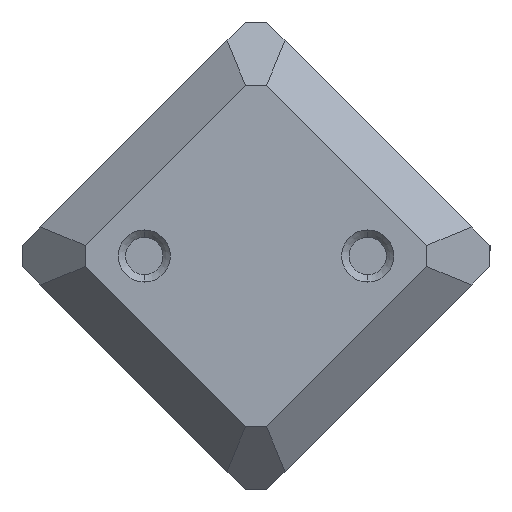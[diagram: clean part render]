
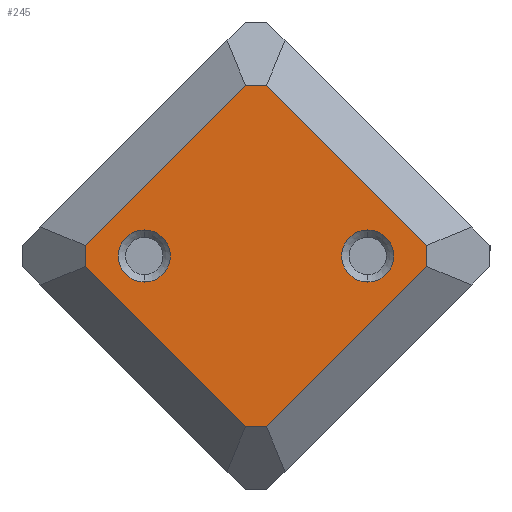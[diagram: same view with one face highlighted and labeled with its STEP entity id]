
A CAD part, front view. The second image highlights one B-rep face of the part: STEP entity #245.
In plain terms, the highlighted planar face has unit normal (0, -1, 0).
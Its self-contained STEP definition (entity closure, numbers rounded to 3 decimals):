
#5 = VECTOR ( 'NONE', #287, 1000. ) ;
#13 = CARTESIAN_POINT ( 'NONE',  ( -7.5, -10., 0. ) ) ;
#25 = EDGE_CURVE ( 'NONE', #1343, #389, #1183, .T. ) ;
#66 = AXIS2_PLACEMENT_3D ( 'NONE', #636, #419, #1370 ) ;
#69 = DIRECTION ( 'NONE',  ( 0., -1., 0. ) ) ;
#92 = ORIENTED_EDGE ( 'NONE', *, *, #476, .T. ) ;
#96 = CARTESIAN_POINT ( 'NONE',  ( 11.464, -10., 0.707 ) ) ;
#101 = CARTESIAN_POINT ( 'NONE',  ( -7.5, -10., -1.75 ) ) ;
#115 = LINE ( 'NONE', #614, #951 ) ;
#116 = CARTESIAN_POINT ( 'NONE',  ( 11.464, -10., -0.707 ) ) ;
#117 = VECTOR ( 'NONE', #504, 1000. ) ;
#143 = CARTESIAN_POINT ( 'NONE',  ( -11.464, -10., -0.707 ) ) ;
#177 = ORIENTED_EDGE ( 'NONE', *, *, #349, .T. ) ;
#182 = CARTESIAN_POINT ( 'NONE',  ( -11.464, -10., 0.707 ) ) ;
#203 = VECTOR ( 'NONE', #1028, 1000. ) ;
#204 = DIRECTION ( 'NONE',  ( 0., 0., -1. ) ) ;
#208 = VERTEX_POINT ( 'NONE', #388 ) ;
#216 = DIRECTION ( 'NONE',  ( 0., 1., 0. ) ) ;
#218 = EDGE_CURVE ( 'NONE', #389, #208, #864, .T. ) ;
#239 = AXIS2_PLACEMENT_3D ( 'NONE', #1353, #69, #600 ) ;
#245 = ADVANCED_FACE ( 'NONE', ( #1150, #543, #784 ), #698, .T. ) ;
#255 = LINE ( 'NONE', #1016, #203 ) ;
#267 = AXIS2_PLACEMENT_3D ( 'NONE', #1054, #216, #204 ) ;
#268 = LINE ( 'NONE', #724, #1371 ) ;
#285 = CIRCLE ( 'NONE', #438, 1.75 ) ;
#287 = DIRECTION ( 'NONE',  ( -1., 0., 0. ) ) ;
#289 = CARTESIAN_POINT ( 'NONE',  ( -0.707, -10., -11.464 ) ) ;
#302 = LINE ( 'NONE', #1344, #986 ) ;
#314 = CARTESIAN_POINT ( 'NONE',  ( 7.5, -10., 1.75 ) ) ;
#323 = DIRECTION ( 'NONE',  ( -0.707, 0., 0.707 ) ) ;
#349 = EDGE_CURVE ( 'NONE', #208, #592, #115, .T. ) ;
#383 = AXIS2_PLACEMENT_3D ( 'NONE', #1059, #1383, #958 ) ;
#388 = CARTESIAN_POINT ( 'NONE',  ( 0.707, -10., -11.464 ) ) ;
#389 = VERTEX_POINT ( 'NONE', #289 ) ;
#402 = ORIENTED_EDGE ( 'NONE', *, *, #25, .T. ) ;
#410 = CARTESIAN_POINT ( 'NONE',  ( -0.707, -10., 11.464 ) ) ;
#419 = DIRECTION ( 'NONE',  ( 0., 1., 0. ) ) ;
#421 = CARTESIAN_POINT ( 'NONE',  ( 11.464, -10., 0. ) ) ;
#438 = AXIS2_PLACEMENT_3D ( 'NONE', #13, #454, #674 ) ;
#443 = EDGE_CURVE ( 'NONE', #1006, #1343, #255, .T. ) ;
#454 = DIRECTION ( 'NONE',  ( 0., 1., 0. ) ) ;
#468 = VERTEX_POINT ( 'NONE', #96 ) ;
#476 = EDGE_CURVE ( 'NONE', #592, #468, #746, .T. ) ;
#502 = VERTEX_POINT ( 'NONE', #314 ) ;
#504 = DIRECTION ( 'NONE',  ( 1., 0., 0. ) ) ;
#543 = FACE_BOUND ( 'NONE', #808, .T. ) ;
#567 = CARTESIAN_POINT ( 'NONE',  ( 0.707, -10., 11.464 ) ) ;
#571 = EDGE_CURVE ( 'NONE', #502, #701, #1311, .T. ) ;
#588 = LINE ( 'NONE', #1223, #5 ) ;
#592 = VERTEX_POINT ( 'NONE', #116 ) ;
#600 = DIRECTION ( 'NONE',  ( 0., 0., -1. ) ) ;
#614 = CARTESIAN_POINT ( 'NONE',  ( 0., -10., -12.172 ) ) ;
#635 = EDGE_CURVE ( 'NONE', #977, #1241, #285, .T. ) ;
#636 = CARTESIAN_POINT ( 'NONE',  ( 7.5, -10., 0. ) ) ;
#674 = DIRECTION ( 'NONE',  ( 0., 0., -1. ) ) ;
#675 = ORIENTED_EDGE ( 'NONE', *, *, #1175, .T. ) ;
#696 = DIRECTION ( 'NONE',  ( -0.707, 0., -0.707 ) ) ;
#698 = PLANE ( 'NONE',  #239 ) ;
#701 = VERTEX_POINT ( 'NONE', #773 ) ;
#724 = CARTESIAN_POINT ( 'NONE',  ( 12.172, -10., 0. ) ) ;
#734 = ORIENTED_EDGE ( 'NONE', *, *, #218, .T. ) ;
#746 = LINE ( 'NONE', #421, #877 ) ;
#750 = CARTESIAN_POINT ( 'NONE',  ( -12.172, -10., 0. ) ) ;
#773 = CARTESIAN_POINT ( 'NONE',  ( 7.5, -10., -1.75 ) ) ;
#784 = FACE_OUTER_BOUND ( 'NONE', #972, .T. ) ;
#805 = ORIENTED_EDGE ( 'NONE', *, *, #1141, .T. ) ;
#808 = EDGE_LOOP ( 'NONE', ( #1315, #1377 ) ) ;
#814 = CARTESIAN_POINT ( 'NONE',  ( -7.5, -10., 1.75 ) ) ;
#858 = DIRECTION ( 'NONE',  ( 0.707, 0., -0.707 ) ) ;
#864 = LINE ( 'NONE', #1124, #117 ) ;
#877 = VECTOR ( 'NONE', #1365, 1000. ) ;
#885 = ORIENTED_EDGE ( 'NONE', *, *, #933, .T. ) ;
#891 = VECTOR ( 'NONE', #858, 1000. ) ;
#894 = ORIENTED_EDGE ( 'NONE', *, *, #443, .T. ) ;
#925 = DIRECTION ( 'NONE',  ( 0.707, 0., 0.707 ) ) ;
#933 = EDGE_CURVE ( 'NONE', #1378, #992, #588, .T. ) ;
#951 = VECTOR ( 'NONE', #925, 1000. ) ;
#958 = DIRECTION ( 'NONE',  ( 0., 0., -1. ) ) ;
#972 = EDGE_LOOP ( 'NONE', ( #177, #92, #675, #885, #1046, #894, #402, #734 ) ) ;
#977 = VERTEX_POINT ( 'NONE', #814 ) ;
#986 = VECTOR ( 'NONE', #696, 1000. ) ;
#992 = VERTEX_POINT ( 'NONE', #410 ) ;
#1006 = VERTEX_POINT ( 'NONE', #182 ) ;
#1016 = CARTESIAN_POINT ( 'NONE',  ( -11.464, -10., 0. ) ) ;
#1022 = EDGE_CURVE ( 'NONE', #992, #1006, #302, .T. ) ;
#1028 = DIRECTION ( 'NONE',  ( 0., 0., -1. ) ) ;
#1046 = ORIENTED_EDGE ( 'NONE', *, *, #1022, .T. ) ;
#1054 = CARTESIAN_POINT ( 'NONE',  ( 7.5, -10., 0. ) ) ;
#1059 = CARTESIAN_POINT ( 'NONE',  ( -7.5, -10., 0. ) ) ;
#1124 = CARTESIAN_POINT ( 'NONE',  ( 0., -10., -11.464 ) ) ;
#1141 = EDGE_CURVE ( 'NONE', #701, #502, #1213, .T. ) ;
#1150 = FACE_BOUND ( 'NONE', #1220, .T. ) ;
#1175 = EDGE_CURVE ( 'NONE', #468, #1378, #268, .T. ) ;
#1183 = LINE ( 'NONE', #750, #891 ) ;
#1210 = CIRCLE ( 'NONE', #383, 1.75 ) ;
#1213 = CIRCLE ( 'NONE', #66, 1.75 ) ;
#1220 = EDGE_LOOP ( 'NONE', ( #805, #1278 ) ) ;
#1223 = CARTESIAN_POINT ( 'NONE',  ( 0., -10., 11.464 ) ) ;
#1241 = VERTEX_POINT ( 'NONE', #101 ) ;
#1264 = EDGE_CURVE ( 'NONE', #1241, #977, #1210, .T. ) ;
#1278 = ORIENTED_EDGE ( 'NONE', *, *, #571, .T. ) ;
#1311 = CIRCLE ( 'NONE', #267, 1.75 ) ;
#1315 = ORIENTED_EDGE ( 'NONE', *, *, #1264, .T. ) ;
#1343 = VERTEX_POINT ( 'NONE', #143 ) ;
#1344 = CARTESIAN_POINT ( 'NONE',  ( 0., -10., 12.172 ) ) ;
#1353 = CARTESIAN_POINT ( 'NONE',  ( 0., -10., 0. ) ) ;
#1365 = DIRECTION ( 'NONE',  ( 0., 0., 1. ) ) ;
#1370 = DIRECTION ( 'NONE',  ( 0., 0., -1. ) ) ;
#1371 = VECTOR ( 'NONE', #323, 1000. ) ;
#1377 = ORIENTED_EDGE ( 'NONE', *, *, #635, .T. ) ;
#1378 = VERTEX_POINT ( 'NONE', #567 ) ;
#1383 = DIRECTION ( 'NONE',  ( 0., 1., 0. ) ) ;
